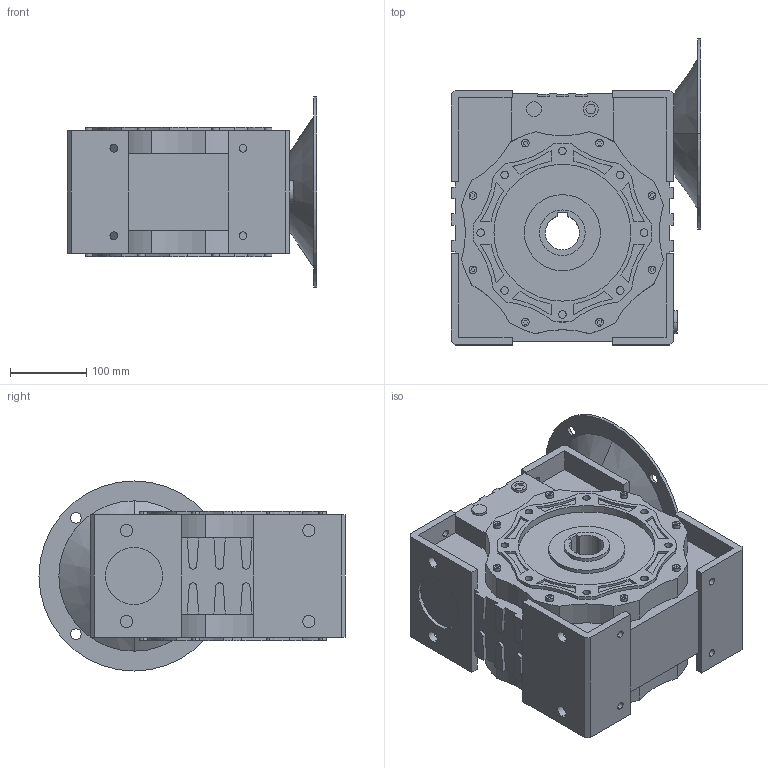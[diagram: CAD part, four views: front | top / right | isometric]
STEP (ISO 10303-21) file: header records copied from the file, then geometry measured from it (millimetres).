
FILE_DESCRIPTION (( 'STEP AP203' ), '1' );
FILE_NAME ('RV130.STEP', '2018-09-27T08:50:04', ( '微软用户' ), ( '微软中国' ), 'SwSTEP 2.0', 'SolidWorks 2014', '' );
FILE_SCHEMA (( 'CONFIG_CONTROL_DESIGN' ));
Length unit declared in the file: millimetre
Products named in the file (1): RV130
Bounding box: 328.25 x 402.5 x 250 mm (x, y, z)
Volume: 13677562.9 mm3; surface area: 656750 mm2
Topology: 1 solids, 1 shells, 763 faces, 1935 edges, 1289 vertices
Faces by surface type: plane 472, cylinder 287, cone 4
Entity records: 23195 total; most frequent: DIRECTION 4048, CARTESIAN_POINT 3988, ORIENTED_EDGE 3870, EDGE_CURVE 1935, LINE 1350, VECTOR 1350, AXIS2_PLACEMENT_3D 1349, VERTEX_POINT 1289
